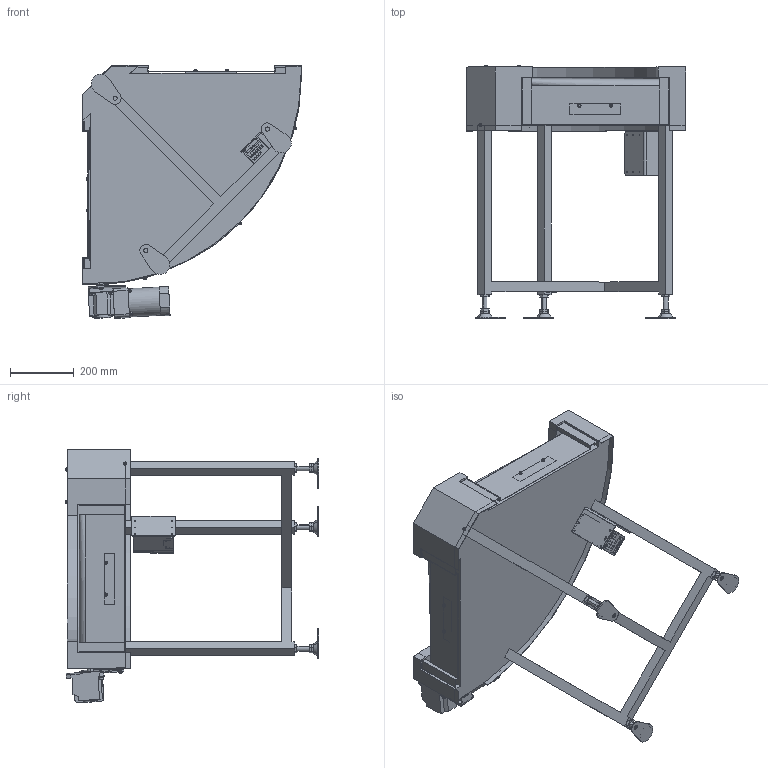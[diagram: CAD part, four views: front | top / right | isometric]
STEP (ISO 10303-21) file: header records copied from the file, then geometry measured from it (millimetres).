
FILE_DESCRIPTION( (''), '2;1');
FILE_NAME ('MBC2H-HS-309-400-90°-L-IVH-60-O.stp','2025-02-17T11:05:50',(''),(''),'spGate 20.6.2 (****-****-****-****)','','');
FILE_SCHEMA (('AUTOMOTIVE_DESIGN'));
Length unit declared in the file: millimetre
Products named in the file (36): NewModel; MBC2H-HS-309-400-90°-L-IVH-60-O; TEMP_X_T-prt0; TEMP_X_T-prt1; TEMP_X_T-prt2; TEMP_X_T-prt3; TEMP_X_T-prt4; TEMP_X_T-prt5; TEMP_X_T-prt6; TEMP_X_T-prt7; TEMP_X_T-prt8; TEMP_X_T-prt9; TEMP_X_T-prt10; TEMP_X_T-prt11; TEMP_X_T-prt12; TEMP_X_T-prt13; TEMP_X_T-prt14; TEMP_X_T-prt15; TEMP_X_T-prt16; TEMP_X_T-prt17; TEMP_X_T-prt18; TEMP_X_T-prt19; TEMP_X_T-prt20; TEMP_X_T-prt21; TEMP_X_T-prt22; TEMP_X_T-prt23; TEMP_X_T-prt24; TEMP_X_T-prt25; TEMP_X_T-prt26; TEMP_X_T-prt27; TEMP_X_T-prt28; TEMP_X_T-prt29; TEMP_X_T-prt30; TEMP_X_T-prt31; TEMP_X_T-prt32; TEMP_X_T-prt33
Assembly tree (35 placements, depth 3):
  NewModel
    MBC2H-HS-309-400-90°-L-IVH-60-O
      TEMP_X_T-prt0
      TEMP_X_T-prt1
      TEMP_X_T-prt2
      TEMP_X_T-prt3
      TEMP_X_T-prt4
      TEMP_X_T-prt5
      TEMP_X_T-prt6
      TEMP_X_T-prt7
      TEMP_X_T-prt8
      TEMP_X_T-prt9
      TEMP_X_T-prt10
      TEMP_X_T-prt11
      TEMP_X_T-prt12
      TEMP_X_T-prt13
      TEMP_X_T-prt14
      TEMP_X_T-prt15
      TEMP_X_T-prt16
      TEMP_X_T-prt17
      TEMP_X_T-prt18
      TEMP_X_T-prt19
      TEMP_X_T-prt20
      TEMP_X_T-prt21
      TEMP_X_T-prt22
      TEMP_X_T-prt23
      TEMP_X_T-prt24
      TEMP_X_T-prt25
      TEMP_X_T-prt26
      TEMP_X_T-prt27
      TEMP_X_T-prt28
      TEMP_X_T-prt29
      TEMP_X_T-prt30
      TEMP_X_T-prt31
      TEMP_X_T-prt32
      TEMP_X_T-prt33
Bounding box: 688.1 x 794.6 x 793.8 mm (x, y, z)
Volume: 39854206.2 mm3; surface area: 2905614 mm2
Topology: 34 solids, 34 shells, 1618 faces, 4017 edges, 2595 vertices
Faces by surface type: plane 1120, cylinder 323, bspline 169, sphere 6
Entity records: 85312 total; most frequent: CARTESIAN_POINT 14385, ORIENTED_EDGE 7986, DIRECTION 7340, COLOUR_RGB 5645, PRESENTATION_STYLE_ASSIGNMENT 5645, STYLED_ITEM 5645, EDGE_CURVE 3993, DRAUGHTING_PRE_DEFINED_CURVE_FONT 3993
